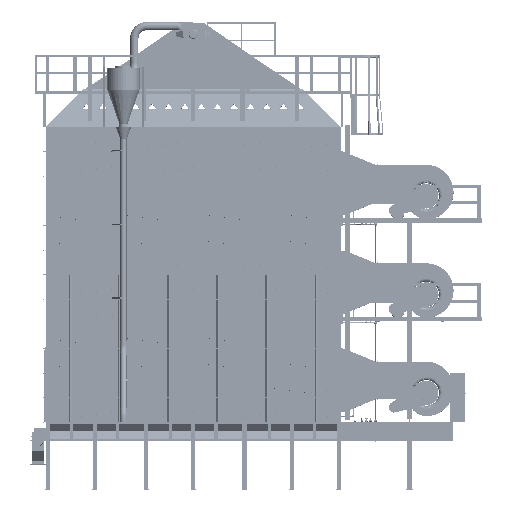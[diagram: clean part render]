
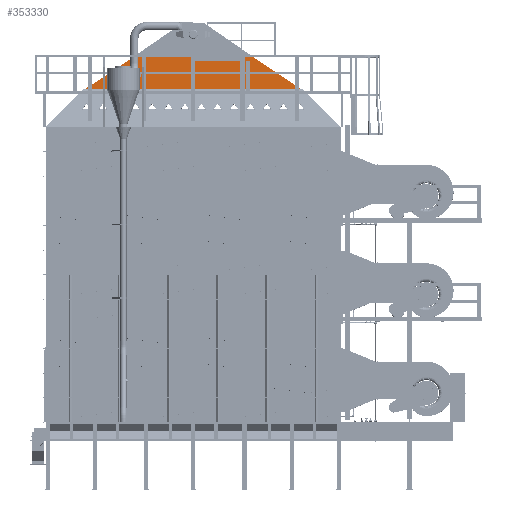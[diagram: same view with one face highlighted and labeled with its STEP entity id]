
A CAD part, top view. The second image highlights one B-rep face of the part: STEP entity #353330.
In plain terms, the highlighted planar face has unit normal (0, 0, 1) as drawn and (0, 1, 0) by its records, which use the part's own axes.
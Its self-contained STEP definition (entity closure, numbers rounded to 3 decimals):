
#64815=FACE_OUTER_BOUND('',#85697,.T.);
#85697=EDGE_LOOP('',(#313775,#313776,#313777,#313778));
#111731=LINE('',#813162,#140983);
#111741=LINE('',#813182,#140993);
#111742=LINE('',#813184,#140994);
#111743=LINE('',#813185,#140995);
#140983=VECTOR('',#463727,0.394);
#140993=VECTOR('',#463747,0.394);
#140994=VECTOR('',#463748,0.394);
#140995=VECTOR('',#463749,0.394);
#174379=VERTEX_POINT('',#813159);
#174380=VERTEX_POINT('',#813161);
#174385=VERTEX_POINT('',#813181);
#174386=VERTEX_POINT('',#813183);
#221626=EDGE_CURVE('',#174380,#174379,#111731,.T.);
#221636=EDGE_CURVE('',#174379,#174385,#111741,.T.);
#221637=EDGE_CURVE('',#174386,#174385,#111742,.T.);
#221638=EDGE_CURVE('',#174386,#174380,#111743,.T.);
#313775=ORIENTED_EDGE('',*,*,#221626,.T.);
#313776=ORIENTED_EDGE('',*,*,#221636,.T.);
#313777=ORIENTED_EDGE('',*,*,#221637,.F.);
#313778=ORIENTED_EDGE('',*,*,#221638,.T.);
#334641=PLANE('',#384169);
#353330=ADVANCED_FACE('',(#64815),#334641,.T.);
#384169=AXIS2_PLACEMENT_3D('',#813180,#463745,#463746);
#463727=DIRECTION('',(-1.,0.,0.));
#463745=DIRECTION('center_axis',(0.,1.,0.));
#463746=DIRECTION('ref_axis',(0.,0.,1.));
#463747=DIRECTION('',(0.833,0.,0.554));
#463748=DIRECTION('',(-1.,0.,0.));
#463749=DIRECTION('',(0.833,0.,-0.554));
#813159=CARTESIAN_POINT('',(-106.562,6.,-31.875));
#813161=CARTESIAN_POINT('',(106.562,6.,-31.875));
#813162=CARTESIAN_POINT('',(0.,6.,-31.875));
#813180=CARTESIAN_POINT('Origin',(0.,6.,-16.));
#813181=CARTESIAN_POINT('',(-58.625,6.,0.));
#813182=CARTESIAN_POINT('',(-106.75,6.,-32.));
#813183=CARTESIAN_POINT('',(58.625,6.,0.));
#813184=CARTESIAN_POINT('',(0.,6.,0.));
#813185=CARTESIAN_POINT('',(58.625,6.,0.));
